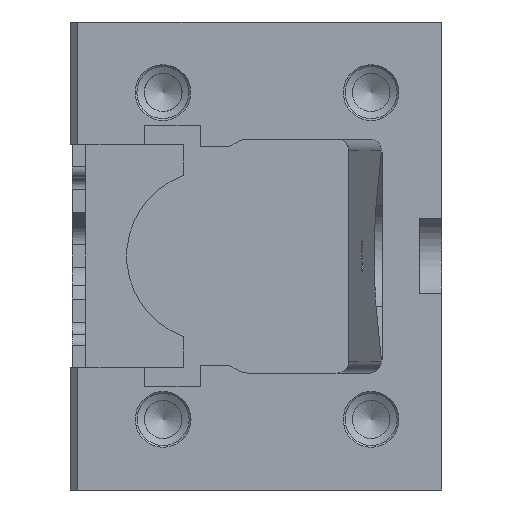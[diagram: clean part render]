
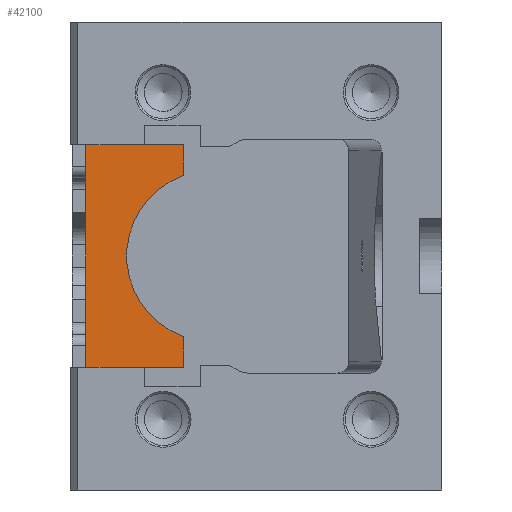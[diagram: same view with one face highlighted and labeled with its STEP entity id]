
A CAD part, left-side view. The second image highlights one B-rep face of the part: STEP entity #42100.
In plain terms, the highlighted planar face has unit normal (-1, 0, 0).
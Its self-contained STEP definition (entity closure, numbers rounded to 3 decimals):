
#1331 = CARTESIAN_POINT ( 'NONE',  ( 8.5, 99.31, 30. ) ) ;
#2615 = CARTESIAN_POINT ( 'NONE',  ( 8.5, 83.5, 30. ) ) ;
#11237 = DIRECTION ( 'NONE',  ( 0., -1., 0. ) ) ;
#12371 = CARTESIAN_POINT ( 'NONE',  ( 8.5, 72.91, -21.708 ) ) ;
#15528 = ORIENTED_EDGE ( 'NONE', *, *, #104347, .T. ) ;
#16511 = DIRECTION ( 'NONE',  ( 1., 0., 0. ) ) ;
#17160 = LINE ( 'NONE', #1331, #82463 ) ;
#18249 = VECTOR ( 'NONE', #97354, 1000. ) ;
#19187 = VERTEX_POINT ( 'NONE', #2615 ) ;
#21949 = CARTESIAN_POINT ( 'NONE',  ( 8.5, 99.31, -30. ) ) ;
#22599 = CIRCLE ( 'NONE', #61565, 23. ) ;
#23118 = CARTESIAN_POINT ( 'NONE',  ( 8.5, 99.31, -30. ) ) ;
#23582 = CARTESIAN_POINT ( 'NONE',  ( 8.5, 72.91, 30. ) ) ;
#24365 = ORIENTED_EDGE ( 'NONE', *, *, #88342, .T. ) ;
#28225 = VECTOR ( 'NONE', #88653, 1000. ) ;
#29717 = CARTESIAN_POINT ( 'NONE',  ( 8.5, 72.91, -30. ) ) ;
#33399 = DIRECTION ( 'NONE',  ( 1., 0., 0. ) ) ;
#34532 = DIRECTION ( 'NONE',  ( 0., 0., -1. ) ) ;
#34634 = ORIENTED_EDGE ( 'NONE', *, *, #112926, .T. ) ;
#37419 = VECTOR ( 'NONE', #34532, 1000. ) ;
#38666 = VERTEX_POINT ( 'NONE', #12371 ) ;
#40567 = EDGE_CURVE ( 'NONE', #61003, #100053, #87886, .T. ) ;
#41571 = ORIENTED_EDGE ( 'NONE', *, *, #100421, .F. ) ;
#42100 = ADVANCED_FACE ( 'NONE', ( #83505 ), #42346, .F. ) ;
#42346 = PLANE ( 'NONE',  #99914 ) ;
#47166 = VECTOR ( 'NONE', #101004, 1000. ) ;
#48641 = VECTOR ( 'NONE', #11237, 1000. ) ;
#48783 = ORIENTED_EDGE ( 'NONE', *, *, #77120, .F. ) ;
#52423 = CARTESIAN_POINT ( 'NONE',  ( 8.5, 72.91, 30. ) ) ;
#54355 = LINE ( 'NONE', #77740, #28225 ) ;
#56463 = DIRECTION ( 'NONE',  ( 0., -1., 0. ) ) ;
#59543 = VERTEX_POINT ( 'NONE', #21949 ) ;
#61003 = VERTEX_POINT ( 'NONE', #87330 ) ;
#61565 = AXIS2_PLACEMENT_3D ( 'NONE', #109481, #16511, #89169 ) ;
#63242 = VERTEX_POINT ( 'NONE', #118618 ) ;
#68182 = LINE ( 'NONE', #102691, #97248 ) ;
#68427 = ORIENTED_EDGE ( 'NONE', *, *, #85637, .F. ) ;
#77120 = EDGE_CURVE ( 'NONE', #117353, #63242, #105262, .T. ) ;
#77740 = CARTESIAN_POINT ( 'NONE',  ( 8.5, 99.31, 30. ) ) ;
#82463 = VECTOR ( 'NONE', #94662, 1000. ) ;
#83505 = FACE_OUTER_BOUND ( 'NONE', #103327, .T. ) ;
#85637 = EDGE_CURVE ( 'NONE', #38666, #100053, #104280, .T. ) ;
#87330 = CARTESIAN_POINT ( 'NONE',  ( 8.5, 83.5, -30. ) ) ;
#87886 = LINE ( 'NONE', #112319, #48641 ) ;
#88218 = CARTESIAN_POINT ( 'NONE',  ( 8.5, 99.31, 30. ) ) ;
#88342 = EDGE_CURVE ( 'NONE', #38666, #63242, #22599, .T. ) ;
#88653 = DIRECTION ( 'NONE',  ( 0., 0., -1. ) ) ;
#89169 = DIRECTION ( 'NONE',  ( 0., 1., 0. ) ) ;
#94662 = DIRECTION ( 'NONE',  ( 0., -1., 0. ) ) ;
#97248 = VECTOR ( 'NONE', #56463, 1000. ) ;
#97354 = DIRECTION ( 'NONE',  ( 0., -1., 0. ) ) ;
#98348 = DIRECTION ( 'NONE',  ( 0., 1., 0. ) ) ;
#99914 = AXIS2_PLACEMENT_3D ( 'NONE', #88218, #33399, #98348 ) ;
#100053 = VERTEX_POINT ( 'NONE', #29717 ) ;
#100421 = EDGE_CURVE ( 'NONE', #19187, #117353, #68182, .T. ) ;
#101004 = DIRECTION ( 'NONE',  ( 0., 0., -1. ) ) ;
#101205 = ORIENTED_EDGE ( 'NONE', *, *, #102537, .F. ) ;
#102537 = EDGE_CURVE ( 'NONE', #110885, #19187, #17160, .T. ) ;
#102691 = CARTESIAN_POINT ( 'NONE',  ( 8.5, 99.31, 30. ) ) ;
#103327 = EDGE_LOOP ( 'NONE', ( #68427, #24365, #48783, #41571, #101205, #15528, #34634, #108264 ) ) ;
#103947 = LINE ( 'NONE', #23118, #18249 ) ;
#104280 = LINE ( 'NONE', #52423, #37419 ) ;
#104347 = EDGE_CURVE ( 'NONE', #110885, #59543, #54355, .T. ) ;
#105040 = CARTESIAN_POINT ( 'NONE',  ( 8.5, 72.91, 30. ) ) ;
#105262 = LINE ( 'NONE', #23582, #47166 ) ;
#107802 = CARTESIAN_POINT ( 'NONE',  ( 8.5, 99.31, 30. ) ) ;
#108264 = ORIENTED_EDGE ( 'NONE', *, *, #40567, .T. ) ;
#109481 = CARTESIAN_POINT ( 'NONE',  ( 8.5, 65.31, 0. ) ) ;
#110885 = VERTEX_POINT ( 'NONE', #107802 ) ;
#112319 = CARTESIAN_POINT ( 'NONE',  ( 8.5, 99.31, -30. ) ) ;
#112926 = EDGE_CURVE ( 'NONE', #59543, #61003, #103947, .T. ) ;
#117353 = VERTEX_POINT ( 'NONE', #105040 ) ;
#118618 = CARTESIAN_POINT ( 'NONE',  ( 8.5, 72.91, 21.708 ) ) ;
